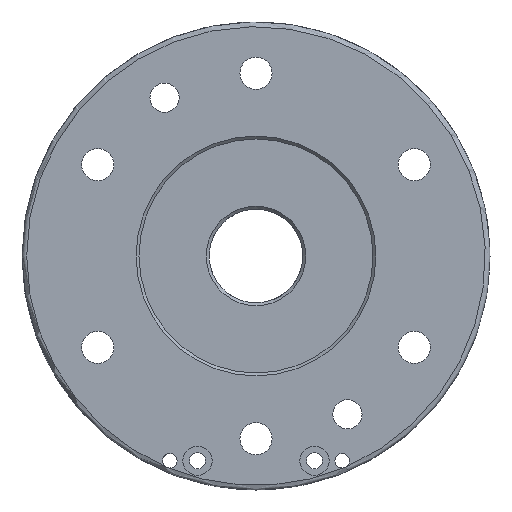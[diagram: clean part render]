
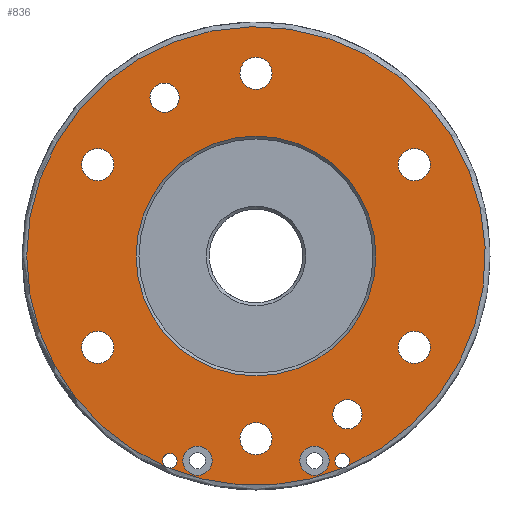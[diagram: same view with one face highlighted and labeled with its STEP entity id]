
A CAD part, front view. The second image highlights one B-rep face of the part: STEP entity #836.
In plain terms, the highlighted planar face has unit normal (0, -1, 0).
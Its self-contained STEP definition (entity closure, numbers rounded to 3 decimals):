
#76=PLANE('',#900);
#98=FACE_BOUND('',#220,.T.);
#99=FACE_BOUND('',#221,.T.);
#100=FACE_BOUND('',#222,.T.);
#101=FACE_BOUND('',#223,.T.);
#102=FACE_BOUND('',#224,.T.);
#103=FACE_BOUND('',#225,.T.);
#104=FACE_BOUND('',#226,.T.);
#105=FACE_BOUND('',#227,.T.);
#106=FACE_BOUND('',#228,.T.);
#107=FACE_BOUND('',#229,.T.);
#108=FACE_BOUND('',#230,.T.);
#162=FACE_OUTER_BOUND('',#219,.T.);
#219=EDGE_LOOP('',(#605,#606,#607,#608));
#220=EDGE_LOOP('',(#609));
#221=EDGE_LOOP('',(#610));
#222=EDGE_LOOP('',(#611));
#223=EDGE_LOOP('',(#612));
#224=EDGE_LOOP('',(#613));
#225=EDGE_LOOP('',(#614));
#226=EDGE_LOOP('',(#615));
#227=EDGE_LOOP('',(#616));
#228=EDGE_LOOP('',(#617));
#229=EDGE_LOOP('',(#618));
#230=EDGE_LOOP('',(#619));
#334=CIRCLE('',#895,2.5);
#336=CIRCLE('',#898,2.5);
#338=CIRCLE('',#901,78.4);
#339=CIRCLE('',#902,78.4);
#340=CIRCLE('',#903,5.);
#341=CIRCLE('',#904,5.);
#342=CIRCLE('',#905,5.5);
#343=CIRCLE('',#906,5.5);
#344=CIRCLE('',#907,5.5);
#345=CIRCLE('',#908,5.5);
#346=CIRCLE('',#909,5.5);
#347=CIRCLE('',#910,5.5);
#348=CIRCLE('',#911,5.);
#349=CIRCLE('',#912,5.);
#350=CIRCLE('',#913,41.);
#410=VERTEX_POINT('',#1285);
#411=VERTEX_POINT('',#1286);
#413=VERTEX_POINT('',#1297);
#414=VERTEX_POINT('',#1298);
#416=VERTEX_POINT('',#1311);
#417=VERTEX_POINT('',#1313);
#418=VERTEX_POINT('',#1315);
#419=VERTEX_POINT('',#1317);
#420=VERTEX_POINT('',#1319);
#421=VERTEX_POINT('',#1321);
#422=VERTEX_POINT('',#1323);
#423=VERTEX_POINT('',#1325);
#424=VERTEX_POINT('',#1327);
#425=VERTEX_POINT('',#1329);
#426=VERTEX_POINT('',#1331);
#496=EDGE_CURVE('',#411,#410,#334,.T.);
#499=EDGE_CURVE('',#414,#413,#336,.T.);
#501=EDGE_CURVE('',#414,#410,#338,.T.);
#502=EDGE_CURVE('',#411,#413,#339,.T.);
#503=EDGE_CURVE('',#416,#416,#340,.T.);
#504=EDGE_CURVE('',#417,#417,#341,.T.);
#505=EDGE_CURVE('',#418,#418,#342,.T.);
#506=EDGE_CURVE('',#419,#419,#343,.T.);
#507=EDGE_CURVE('',#420,#420,#344,.T.);
#508=EDGE_CURVE('',#421,#421,#345,.T.);
#509=EDGE_CURVE('',#422,#422,#346,.T.);
#510=EDGE_CURVE('',#423,#423,#347,.T.);
#511=EDGE_CURVE('',#424,#424,#348,.T.);
#512=EDGE_CURVE('',#425,#425,#349,.T.);
#513=EDGE_CURVE('',#426,#426,#350,.T.);
#605=ORIENTED_EDGE('',*,*,#496,.T.);
#606=ORIENTED_EDGE('',*,*,#501,.F.);
#607=ORIENTED_EDGE('',*,*,#499,.T.);
#608=ORIENTED_EDGE('',*,*,#502,.F.);
#609=ORIENTED_EDGE('',*,*,#503,.T.);
#610=ORIENTED_EDGE('',*,*,#504,.T.);
#611=ORIENTED_EDGE('',*,*,#505,.T.);
#612=ORIENTED_EDGE('',*,*,#506,.T.);
#613=ORIENTED_EDGE('',*,*,#507,.T.);
#614=ORIENTED_EDGE('',*,*,#508,.T.);
#615=ORIENTED_EDGE('',*,*,#509,.T.);
#616=ORIENTED_EDGE('',*,*,#510,.T.);
#617=ORIENTED_EDGE('',*,*,#511,.T.);
#618=ORIENTED_EDGE('',*,*,#512,.T.);
#619=ORIENTED_EDGE('',*,*,#513,.F.);
#836=ADVANCED_FACE('',(#162,#98,#99,#100,#101,#102,#103,#104,#105,#106,
#107,#108),#76,.T.);
#895=AXIS2_PLACEMENT_3D('',#1293,#1019,#1020);
#898=AXIS2_PLACEMENT_3D('',#1305,#1025,#1026);
#900=AXIS2_PLACEMENT_3D('',#1308,#1029,#1030);
#901=AXIS2_PLACEMENT_3D('',#1309,#1031,#1032);
#902=AXIS2_PLACEMENT_3D('',#1310,#1033,#1034);
#903=AXIS2_PLACEMENT_3D('',#1312,#1035,#1036);
#904=AXIS2_PLACEMENT_3D('',#1314,#1037,#1038);
#905=AXIS2_PLACEMENT_3D('',#1316,#1039,#1040);
#906=AXIS2_PLACEMENT_3D('',#1318,#1041,#1042);
#907=AXIS2_PLACEMENT_3D('',#1320,#1043,#1044);
#908=AXIS2_PLACEMENT_3D('',#1322,#1045,#1046);
#909=AXIS2_PLACEMENT_3D('',#1324,#1047,#1048);
#910=AXIS2_PLACEMENT_3D('',#1326,#1049,#1050);
#911=AXIS2_PLACEMENT_3D('',#1328,#1051,#1052);
#912=AXIS2_PLACEMENT_3D('',#1330,#1053,#1054);
#913=AXIS2_PLACEMENT_3D('',#1332,#1055,#1056);
#1019=DIRECTION('center_axis',(0.,1.,0.));
#1020=DIRECTION('ref_axis',(1.,0.,0.));
#1025=DIRECTION('center_axis',(0.,1.,0.));
#1026=DIRECTION('ref_axis',(1.,0.,0.));
#1029=DIRECTION('center_axis',(0.,-1.,0.));
#1030=DIRECTION('ref_axis',(0.,0.,-1.));
#1031=DIRECTION('center_axis',(0.,1.,0.));
#1032=DIRECTION('ref_axis',(1.,0.,0.));
#1033=DIRECTION('center_axis',(0.,1.,0.));
#1034=DIRECTION('ref_axis',(1.,0.,0.));
#1035=DIRECTION('center_axis',(0.,1.,0.));
#1036=DIRECTION('ref_axis',(1.,0.,0.));
#1037=DIRECTION('center_axis',(0.,1.,0.));
#1038=DIRECTION('ref_axis',(1.,0.,0.));
#1039=DIRECTION('center_axis',(0.,1.,0.));
#1040=DIRECTION('ref_axis',(1.,0.,0.));
#1041=DIRECTION('center_axis',(0.,1.,0.));
#1042=DIRECTION('ref_axis',(1.,0.,0.));
#1043=DIRECTION('center_axis',(0.,1.,0.));
#1044=DIRECTION('ref_axis',(1.,0.,0.));
#1045=DIRECTION('center_axis',(0.,1.,0.));
#1046=DIRECTION('ref_axis',(1.,0.,0.));
#1047=DIRECTION('center_axis',(0.,1.,0.));
#1048=DIRECTION('ref_axis',(1.,0.,0.));
#1049=DIRECTION('center_axis',(0.,1.,0.));
#1050=DIRECTION('ref_axis',(1.,0.,0.));
#1051=DIRECTION('center_axis',(0.,1.,0.));
#1052=DIRECTION('ref_axis',(1.,0.,0.));
#1053=DIRECTION('center_axis',(0.,1.,0.));
#1054=DIRECTION('ref_axis',(1.,0.,0.));
#1055=DIRECTION('center_axis',(0.,-1.,0.));
#1056=DIRECTION('ref_axis',(-1.,0.,0.));
#1285=CARTESIAN_POINT('',(-29.927,0.,-72.463));
#1286=CARTESIAN_POINT('',(-30.965,0.,-72.026));
#1293=CARTESIAN_POINT('Origin',(-29.5,0.,-70.));
#1297=CARTESIAN_POINT('',(30.965,0.,-72.026));
#1298=CARTESIAN_POINT('',(29.927,0.,-72.463));
#1305=CARTESIAN_POINT('Origin',(29.5,0.,-70.));
#1308=CARTESIAN_POINT('Origin',(-48.,0.,0.));
#1309=CARTESIAN_POINT('Origin',(0.,0.,0.));
#1310=CARTESIAN_POINT('Origin',(0.,0.,0.));
#1311=CARTESIAN_POINT('',(26.25,0.,-54.127));
#1312=CARTESIAN_POINT('Origin',(31.25,0.,-54.127));
#1313=CARTESIAN_POINT('',(-36.25,0.,54.127));
#1314=CARTESIAN_POINT('Origin',(-31.25,0.,54.127));
#1315=CARTESIAN_POINT('',(48.627,0.,-31.25));
#1316=CARTESIAN_POINT('Origin',(54.127,0.,-31.25));
#1317=CARTESIAN_POINT('',(48.627,0.,31.25));
#1318=CARTESIAN_POINT('Origin',(54.127,0.,31.25));
#1319=CARTESIAN_POINT('',(-5.5,0.,62.5));
#1320=CARTESIAN_POINT('Origin',(0.,0.,62.5));
#1321=CARTESIAN_POINT('',(-59.627,0.,31.25));
#1322=CARTESIAN_POINT('Origin',(-54.127,0.,31.25));
#1323=CARTESIAN_POINT('',(-59.627,0.,-31.25));
#1324=CARTESIAN_POINT('Origin',(-54.127,0.,-31.25));
#1325=CARTESIAN_POINT('',(-5.5,0.,-62.5));
#1326=CARTESIAN_POINT('Origin',(0.,0.,-62.5));
#1327=CARTESIAN_POINT('',(-15.,0.,-70.));
#1328=CARTESIAN_POINT('Origin',(-20.,0.,-70.));
#1329=CARTESIAN_POINT('',(25.,0.,-70.));
#1330=CARTESIAN_POINT('Origin',(20.,0.,-70.));
#1331=CARTESIAN_POINT('',(41.,0.,0.));
#1332=CARTESIAN_POINT('Origin',(0.,0.,0.));
